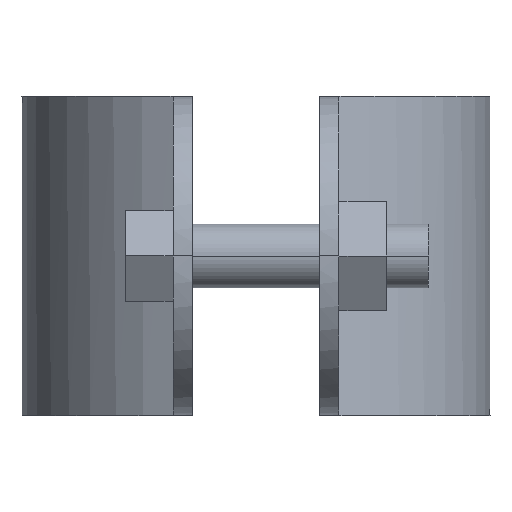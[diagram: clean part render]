
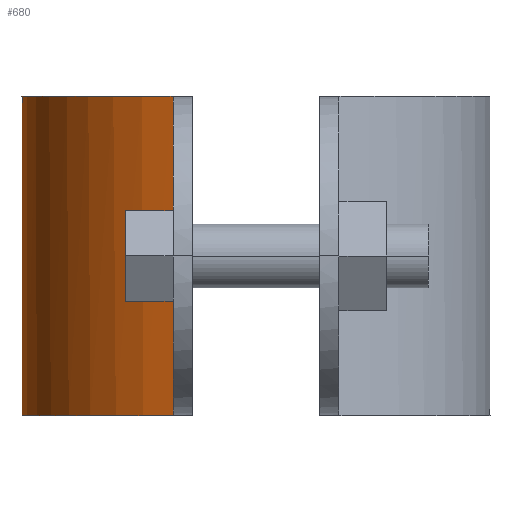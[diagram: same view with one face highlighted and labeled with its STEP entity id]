
A CAD part, left-side view. The second image highlights one B-rep face of the part: STEP entity #680.
In plain terms, the highlighted free-form (B-spline) face has degree [3, 1] with [4, 2] control points.
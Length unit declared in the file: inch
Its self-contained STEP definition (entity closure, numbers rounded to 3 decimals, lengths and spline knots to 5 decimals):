
#368=EDGE_CURVE('',#941,#942,#943,.T.);
#370=EDGE_CURVE('',#945,#941,#946,.T.);
#520=EDGE_CURVE('',#945,#955,#1163,.T.);
#680=ADVANCED_FACE('',(#1375),#1376,.T.);
#722=EDGE_CURVE('',#942,#955,#1425,.T.);
#941=VERTEX_POINT('',#1712);
#942=VERTEX_POINT('',#1713);
#943=LINE('',#1714,#1715);
#945=VERTEX_POINT('',#1718);
#946=B_SPLINE_CURVE_WITH_KNOTS('',3,(#1719,#1720,#1721,#1722),.UNSPECIFIED.,.F.,.F.,(4,4),(-1.0,-0.0),.UNSPECIFIED.);
#955=VERTEX_POINT('',#1736);
#1163=LINE('',#2132,#2133);
#1375=FACE_OUTER_BOUND('',#2460,.T.);
#1376=B_SPLINE_SURFACE_WITH_KNOTS('',3,1,((#2461,#2462),(#2463,#2464),(#2465,#2466),(#2467,#2468)),.UNSPECIFIED.,.F.,.F.,.F.,(4,4),(2,2),(-1.0,-0.0),(0.0,1.25),.UNSPECIFIED.);
#1425=B_SPLINE_CURVE_WITH_KNOTS('',3,(#2548,#2549,#2550,#2551),.UNSPECIFIED.,.F.,.F.,(4,4),(0.0,1.0),.UNSPECIFIED.);
#1712=CARTESIAN_POINT('',(0.52145,1.27224,0.00009));
#1713=CARTESIAN_POINT('',(0.52145,1.27224,1.24989));
#1714=CARTESIAN_POINT('',(0.52145,1.27224,0.0));
#1715=VECTOR('',#2792,1.0);
#1718=CARTESIAN_POINT('',(1.57455,1.84484,0.00009));
#1719=CARTESIAN_POINT('',(1.57455,1.84484,0.00009));
#1720=CARTESIAN_POINT('',(1.13019,1.94118,0.00009));
#1721=CARTESIAN_POINT('',(0.68228,1.69762,0.00009));
#1722=CARTESIAN_POINT('',(0.52145,1.27224,0.00009));
#1736=CARTESIAN_POINT('',(1.57455,1.84484,1.24989));
#2132=CARTESIAN_POINT('',(1.57455,1.84484,0.0));
#2133=VECTOR('',#2979,1.0);
#2460=EDGE_LOOP('',(#3318,#3319,#3320,#3321));
#2461=CARTESIAN_POINT('',(1.57455,1.84484,0.0));
#2462=CARTESIAN_POINT('',(1.57455,1.84484,1.25));
#2463=CARTESIAN_POINT('',(1.13019,1.94118,0.0));
#2464=CARTESIAN_POINT('',(1.13019,1.94118,1.25));
#2465=CARTESIAN_POINT('',(0.68228,1.69762,0.0));
#2466=CARTESIAN_POINT('',(0.68228,1.69762,1.25));
#2467=CARTESIAN_POINT('',(0.52145,1.27224,0.0));
#2468=CARTESIAN_POINT('',(0.52145,1.27224,1.25));
#2548=CARTESIAN_POINT('',(0.52145,1.27224,1.24989));
#2549=CARTESIAN_POINT('',(0.68228,1.69762,1.24989));
#2550=CARTESIAN_POINT('',(1.13019,1.94118,1.24989));
#2551=CARTESIAN_POINT('',(1.57455,1.84484,1.24989));
#2792=DIRECTION('',(0.0,0.0,1.0));
#2979=DIRECTION('',(0.0,0.0,1.0));
#3318=ORIENTED_EDGE('',*,*,#370,.T.);
#3319=ORIENTED_EDGE('',*,*,#368,.T.);
#3320=ORIENTED_EDGE('',*,*,#722,.T.);
#3321=ORIENTED_EDGE('',*,*,#520,.F.);
